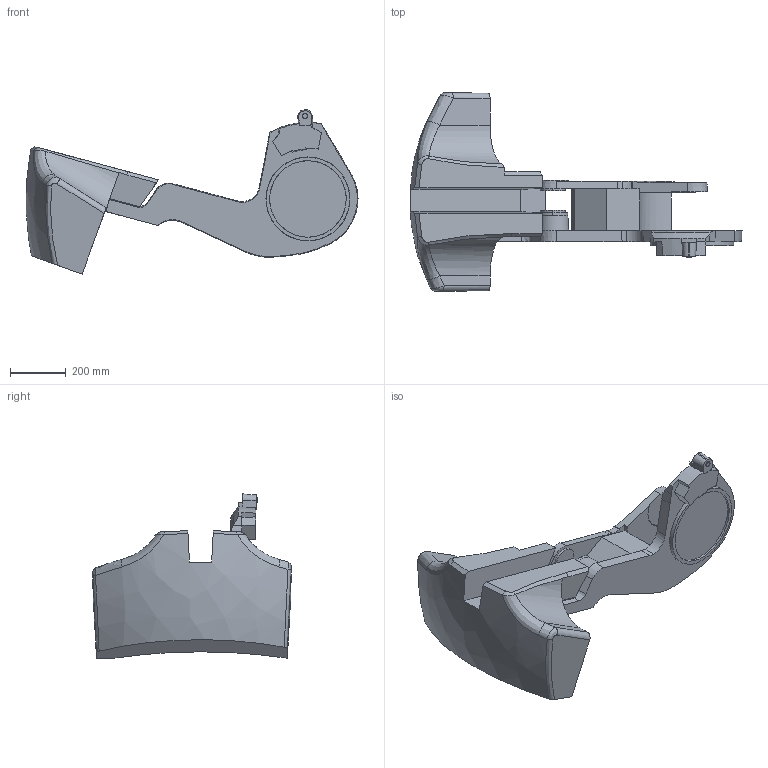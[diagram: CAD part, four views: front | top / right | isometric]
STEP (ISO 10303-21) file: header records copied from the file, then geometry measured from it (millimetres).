
FILE_DESCRIPTION (( 'STEP AP214' ), '1' );
FILE_NAME ('IRB760_445-318_linkarm_CAD_rev01.STEP', '2020-01-31T12:20:33', ( '' ), ( '' ), 'SwSTEP 2.0', 'SolidWorks 2018', '' );
FILE_SCHEMA (( 'AUTOMOTIVE_DESIGN' ));
Length unit declared in the file: millimetre
Products named in the file (2): IRB760_445-318_linkarm_CAD_rev01
Bounding box: 1193.88 x 714.33 x 590.59 mm (x, y, z)
Volume: 69745805.4 mm3; surface area: 1976234.7 mm2
Topology: 1 solids, 1 shells, 190 faces, 558 edges, 374 vertices
Faces by surface type: plane 89, bspline 50, cone 26, cylinder 25
Entity records: 15018 total; most frequent: CARTESIAN_POINT 8411, ORIENTED_EDGE 1116, DIRECTION 655, EDGE_CURVE 558, VERTEX_POINT 374, LINE 263, VECTOR 263, B_SPLINE_CURVE_WITH_KNOTS 230
